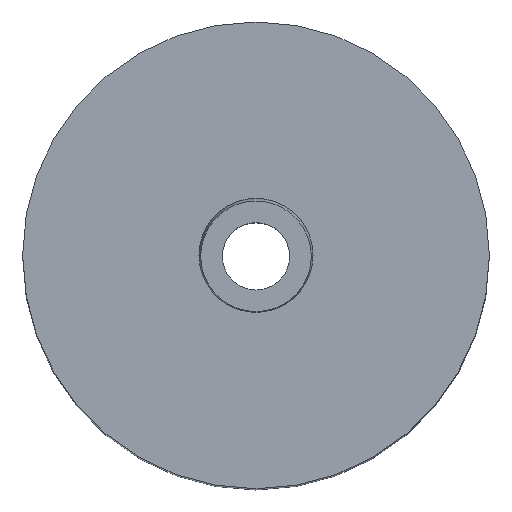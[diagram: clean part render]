
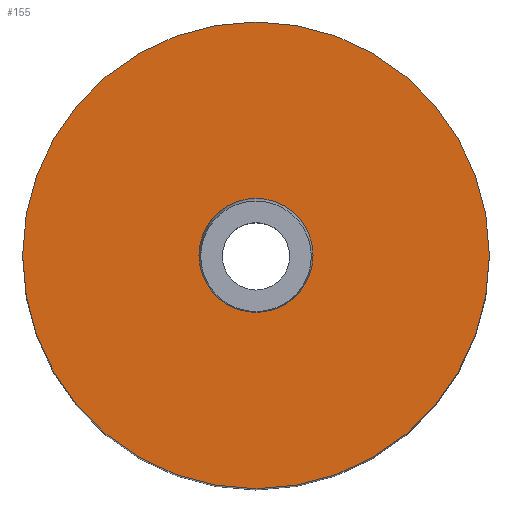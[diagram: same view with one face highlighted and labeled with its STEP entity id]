
A CAD part, top view. The second image highlights one B-rep face of the part: STEP entity #155.
In plain terms, the highlighted planar face has unit normal (0, 0, 1).
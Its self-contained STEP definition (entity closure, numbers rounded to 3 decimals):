
#155=ADVANCED_FACE('',(#179,#180),#174,.T.);
#174=PLANE('',#380);
#179=FACE_BOUND('',#189,.T.);
#180=FACE_BOUND('',#190,.T.);
#189=EDGE_LOOP('',(#213,#214));
#190=EDGE_LOOP('',(#215,#216));
#213=ORIENTED_EDGE('',*,*,#313,.T.);
#214=ORIENTED_EDGE('',*,*,#314,.T.);
#215=ORIENTED_EDGE('',*,*,#315,.F.);
#216=ORIENTED_EDGE('',*,*,#316,.F.);
#289=VERTEX_POINT('',#523);
#290=VERTEX_POINT('',#524);
#291=VERTEX_POINT('',#527);
#292=VERTEX_POINT('',#528);
#313=EDGE_CURVE('',#289,#290,#351,.T.);
#314=EDGE_CURVE('',#290,#289,#352,.T.);
#315=EDGE_CURVE('',#291,#292,#353,.T.);
#316=EDGE_CURVE('',#292,#291,#354,.T.);
#351=CIRCLE('',#376,45.);
#352=CIRCLE('',#377,45.);
#353=CIRCLE('',#378,11.);
#354=CIRCLE('',#379,11.);
#376=AXIS2_PLACEMENT_3D('',#522,#421,#422);
#377=AXIS2_PLACEMENT_3D('',#525,#423,#424);
#378=AXIS2_PLACEMENT_3D('',#526,#425,#426);
#379=AXIS2_PLACEMENT_3D('',#529,#427,#428);
#380=AXIS2_PLACEMENT_3D('',#530,#429,#430);
#421=DIRECTION('',(0.,0.,1.));
#422=DIRECTION('',(0.,1.,0.));
#423=DIRECTION('',(0.,0.,1.));
#424=DIRECTION('',(0.,-1.,0.));
#425=DIRECTION('',(0.,0.,1.));
#426=DIRECTION('',(0.,-1.,0.));
#427=DIRECTION('',(0.,0.,1.));
#428=DIRECTION('',(0.,1.,0.));
#429=DIRECTION('',(0.,0.,1.));
#430=DIRECTION('',(0.,1.,0.));
#522=CARTESIAN_POINT('',(0.,0.,140.));
#523=CARTESIAN_POINT('',(-45.,0.,140.));
#524=CARTESIAN_POINT('',(45.,0.,140.));
#525=CARTESIAN_POINT('',(0.,0.,140.));
#526=CARTESIAN_POINT('',(0.,0.,140.));
#527=CARTESIAN_POINT('',(11.,0.,140.));
#528=CARTESIAN_POINT('',(-11.,0.,140.));
#529=CARTESIAN_POINT('',(0.,0.,140.));
#530=CARTESIAN_POINT('',(0.,0.,140.));
